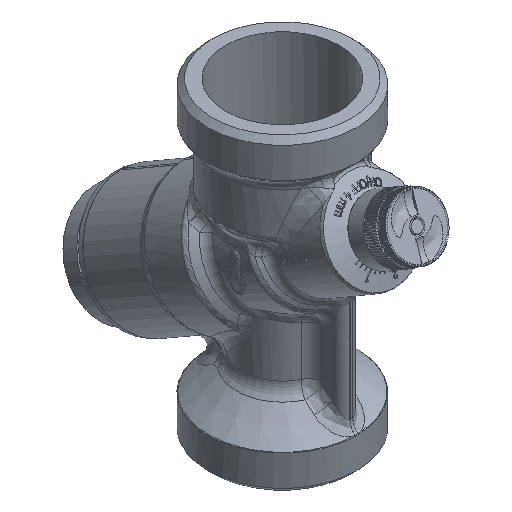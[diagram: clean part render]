
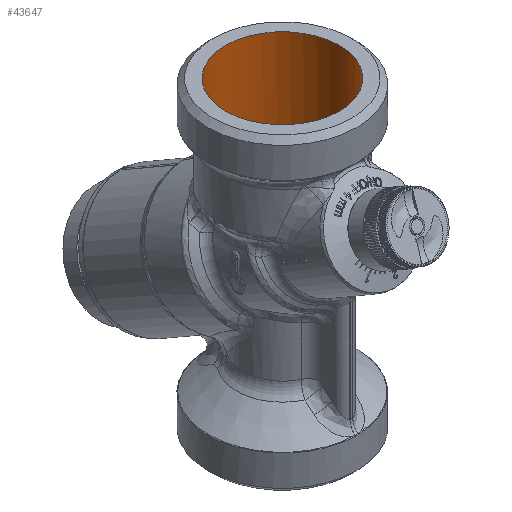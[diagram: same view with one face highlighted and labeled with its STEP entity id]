
A CAD part, isometric view. The second image highlights one B-rep face of the part: STEP entity #43647.
In plain terms, the highlighted cylindrical face has radius 16 mm (diameter 32 mm), a full revolution.
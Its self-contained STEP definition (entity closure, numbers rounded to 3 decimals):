
#1014=CIRCLE('',#46727,16.);
#1015=CIRCLE('',#46728,16.);
#1016=CIRCLE('',#46730,16.);
#1017=CIRCLE('',#46731,16.);
#4441=FACE_OUTER_BOUND('',#6958,.T.);
#6958=EDGE_LOOP('',(#29423,#29424,#29425,#29426,#29427,#29428,#29429));
#9594=B_SPLINE_CURVE_WITH_KNOTS('',3,(#61967,#61968,#61969,#61970,#61971,
#61972,#61973,#61974,#61975,#61976,#61977,#61978,#61979,#61980,#61981,#61982,
#61983,#61984),.UNSPECIFIED.,.F.,.F.,(4,2,2,2,2,2,2,2,4),(0.701,
1.168,1.603,1.82,2.038,2.255,
2.473,2.908,3.374),.UNSPECIFIED.);
#11175=LINE('',#62767,#14466);
#14466=VECTOR('',#50506,16.);
#17781=VERTEX_POINT('',#61957);
#17782=VERTEX_POINT('',#61966);
#17900=VERTEX_POINT('',#62641);
#17901=VERTEX_POINT('',#62642);
#17902=VERTEX_POINT('',#62658);
#22298=EDGE_CURVE('',#17781,#17782,#9594,.T.);
#22451=EDGE_CURVE('',#17900,#17901,#1014,.T.);
#22452=EDGE_CURVE('',#17901,#17900,#1015,.T.);
#22455=EDGE_CURVE('',#17782,#17902,#1016,.T.);
#22456=EDGE_CURVE('',#17902,#17781,#1017,.T.);
#22477=EDGE_CURVE('',#17901,#17902,#11175,.T.);
#29423=ORIENTED_EDGE('',*,*,#22451,.F.);
#29424=ORIENTED_EDGE('',*,*,#22452,.F.);
#29425=ORIENTED_EDGE('',*,*,#22477,.T.);
#29426=ORIENTED_EDGE('',*,*,#22455,.F.);
#29427=ORIENTED_EDGE('',*,*,#22298,.F.);
#29428=ORIENTED_EDGE('',*,*,#22456,.F.);
#29429=ORIENTED_EDGE('',*,*,#22477,.F.);
#42043=CYLINDRICAL_SURFACE('',#46746,16.);
#43647=ADVANCED_FACE('',(#4441),#42043,.F.);
#46727=AXIS2_PLACEMENT_3D('',#62643,#50462,#50463);
#46728=AXIS2_PLACEMENT_3D('',#62644,#50464,#50465);
#46730=AXIS2_PLACEMENT_3D('',#62659,#50468,#50469);
#46731=AXIS2_PLACEMENT_3D('',#62660,#50470,#50471);
#46746=AXIS2_PLACEMENT_3D('',#62766,#50504,#50505);
#50462=DIRECTION('center_axis',(0.,0.,-1.));
#50463=DIRECTION('ref_axis',(-1.,0.,0.));
#50464=DIRECTION('center_axis',(0.,0.,-1.));
#50465=DIRECTION('ref_axis',(-1.,0.,0.));
#50468=DIRECTION('center_axis',(0.,0.,1.));
#50469=DIRECTION('ref_axis',(1.,0.,0.));
#50470=DIRECTION('center_axis',(0.,0.,1.));
#50471=DIRECTION('ref_axis',(1.,0.,0.));
#50504=DIRECTION('center_axis',(0.,0.,
-1.));
#50505=DIRECTION('ref_axis',(-1.,0.,0.));
#50506=DIRECTION('',(0.,0.,-1.));
#61957=CARTESIAN_POINT('',(-9.556,-12.833,13.7));
#61966=CARTESIAN_POINT('',(9.556,-12.833,13.7));
#61967=CARTESIAN_POINT('Ctrl Pts',(-9.556,-12.833,
13.7));
#61968=CARTESIAN_POINT('Ctrl Pts',(-8.954,-13.281,
15.178));
#61969=CARTESIAN_POINT('Ctrl Pts',(-8.184,-13.786,
16.559));
#61970=CARTESIAN_POINT('Ctrl Pts',(-6.447,-14.674,
18.845));
#61971=CARTESIAN_POINT('Ctrl Pts',(-5.373,-15.126,
19.925));
#61972=CARTESIAN_POINT('Ctrl Pts',(-3.501,-15.626,
21.088));
#61973=CARTESIAN_POINT('Ctrl Pts',(-2.834,-15.763,
21.401));
#61974=CARTESIAN_POINT('Ctrl Pts',(-1.446,-15.95,
21.827));
#61975=CARTESIAN_POINT('Ctrl Pts',(-0.725,-16.,21.939));
#61976=CARTESIAN_POINT('Ctrl Pts',(0.725,-16.,21.939));
#61977=CARTESIAN_POINT('Ctrl Pts',(1.446,-15.95,21.827));
#61978=CARTESIAN_POINT('Ctrl Pts',(2.834,-15.763,21.401));
#61979=CARTESIAN_POINT('Ctrl Pts',(3.501,-15.626,21.088));
#61980=CARTESIAN_POINT('Ctrl Pts',(5.373,-15.126,19.925));
#61981=CARTESIAN_POINT('Ctrl Pts',(6.447,-14.674,18.845));
#61982=CARTESIAN_POINT('Ctrl Pts',(8.184,-13.786,16.559));
#61983=CARTESIAN_POINT('Ctrl Pts',(8.954,-13.281,15.178));
#61984=CARTESIAN_POINT('Ctrl Pts',(9.556,-12.833,13.7));
#62641=CARTESIAN_POINT('',(16.,0.,39.));
#62642=CARTESIAN_POINT('',(16.,-0.004,39.));
#62643=CARTESIAN_POINT('Origin',(0.,0.,
39.));
#62644=CARTESIAN_POINT('Origin',(0.,0.,
39.));
#62658=CARTESIAN_POINT('',(16.,-0.004,13.7));
#62659=CARTESIAN_POINT('Origin',(0.,0.,13.7));
#62660=CARTESIAN_POINT('Origin',(0.,0.,13.7));
#62766=CARTESIAN_POINT('Origin',(0.,0.,
34.2));
#62767=CARTESIAN_POINT('',(16.,-0.004,34.2));
